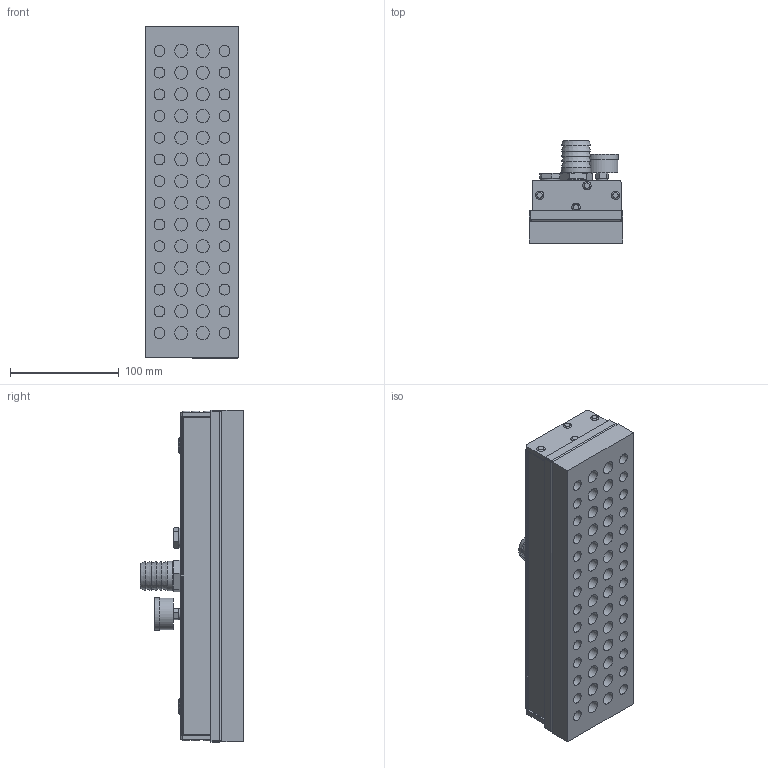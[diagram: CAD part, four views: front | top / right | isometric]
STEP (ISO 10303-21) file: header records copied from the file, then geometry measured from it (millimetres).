
FILE_DESCRIPTION (( 'STEP AP203' ), '1' );
FILE_NAME ('9671 030 012.STEP', '2014-03-12T11:27:38', ( '' ), ( '' ), 'SwSTEP 2.0', 'SolidWorks 2014', '' );
FILE_SCHEMA (( 'CONFIG_CONTROL_DESIGN' ));
Length unit declared in the file: millimetre
Products named in the file (1): 9671 030 012
Bounding box: 86 x 95 x 306 mm (x, y, z)
Volume: 1363122.2 mm3; surface area: 168115.5 mm2
Topology: 1 solids, 1 shells, 409 faces, 850 edges, 537 vertices
Faces by surface type: plane 249, cylinder 110, cone 21, torus 15, bspline 14
Full cylindrical faces by diameter (mm): 6.8 x4, 9.77 x1, 10 x28, 12 x28, 15 x2, 18 x1, 18.9 x1, 26.96 x1, 27 x1, 29 x1, 30 x1
Entity records: 11229 total; most frequent: CARTESIAN_POINT 2862, DIRECTION 1728, ORIENTED_EDGE 1490, EDGE_CURVE 745, AXIS2_PLACEMENT_3D 661, EDGE_LOOP 590, VERTEX_POINT 519, FACE_OUTER_BOUND 487
